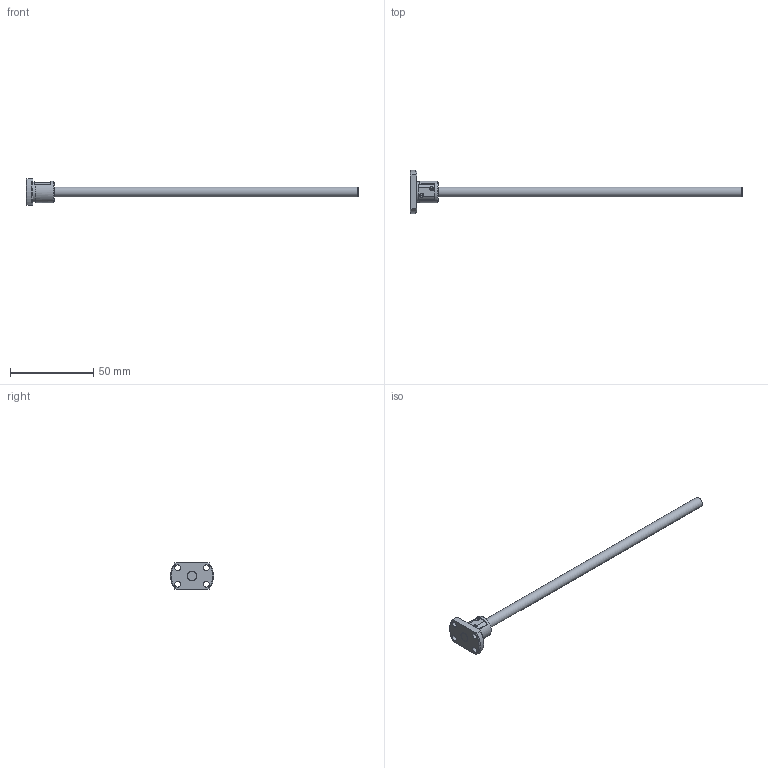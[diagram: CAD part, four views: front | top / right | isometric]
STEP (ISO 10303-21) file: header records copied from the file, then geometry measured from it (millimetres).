
FILE_DESCRIPTION( ( 'STEP AP203' ), '1' );
FILE_NAME( 'e:/temp/worker_65/temp/exporttempdir_908_10_tZlxv/format_0/PSR0601-200R200C5(0).stp', '2021-10-19T08:14:19', ( 'License CC BY-ND 4.0' ), ( 'CADENAS' ), ' ', 'PARTsolutions', ' ' );
FILE_SCHEMA( ( 'CONFIG_CONTROL_DESIGN' ) );
Length unit declared in the file: millimetre
Products named in the file (3): PSR0601-200R200C5(0); _PSR0601_shaft; _PSR0601_nut
Assembly tree (2 placements, depth 2):
  PSR0601-200R200C5(0)
    _PSR0601_shaft
    _PSR0601_nut
Bounding box: 200 x 26 x 16 mm (x, y, z)
Volume: 8219.7 mm3; surface area: 5846.6 mm2
Topology: 2 solids, 2 shells, 54 faces, 138 edges, 91 vertices
Faces by surface type: plane 25, cylinder 22, cone 7
Full cylindrical faces by diameter (mm): 2.5 x2, 3.4 x4, 6 x2, 12.6 x1, 13 x1
Entity records: 1708 total; most frequent: CARTESIAN_POINT 315, DIRECTION 278, ORIENTED_EDGE 242, EDGE_CURVE 121, AXIS2_PLACEMENT_3D 110, VERTEX_POINT 87, EDGE_LOOP 80, FACE_OUTER_BOUND 64
